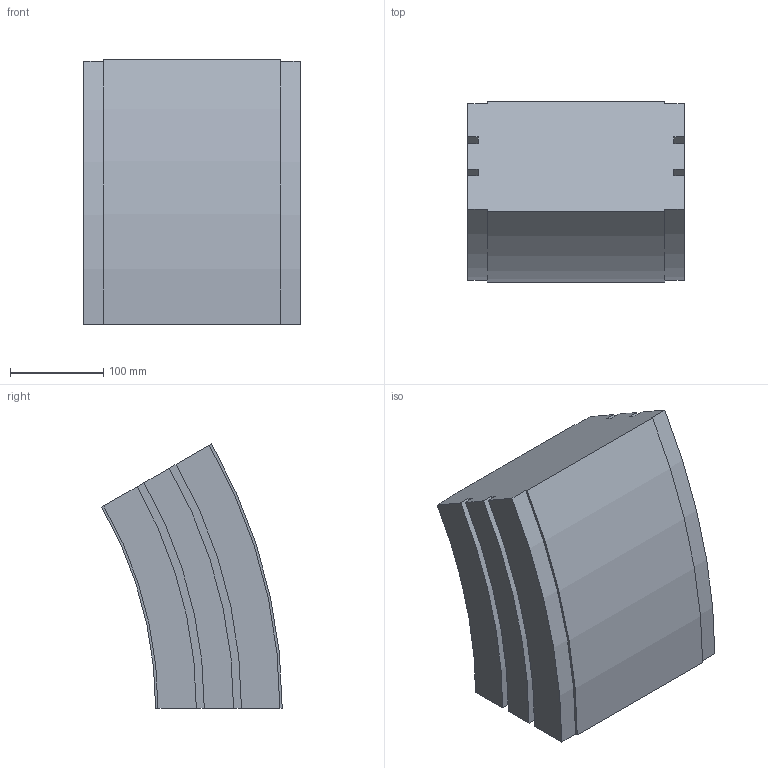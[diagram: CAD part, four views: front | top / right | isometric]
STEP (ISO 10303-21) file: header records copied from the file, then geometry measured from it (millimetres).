
FILE_DESCRIPTION (( 'STEP AP214' ), '1' );
FILE_NAME ('02.150V30.230.N FS-230-MTC-150 Bocht verticaal 30°.STEP', '2013-03-29T13:03:40', ( 'Gebruiker' ), ( '' ), 'SwSTEP 2.0', 'SolidWorks 2012', '' );
FILE_SCHEMA (( 'AUTOMOTIVE_DESIGN' ));
Length unit declared in the file: millimetre
Products named in the file (1): 02.150V30.230.N FS-230-MTC-150 Bocht verticaal 30°
Bounding box: 232.5 x 193.88 x 284 mm (x, y, z)
Volume: 8125205.8 mm3; surface area: 278056.5 mm2
Topology: 1 solids, 1 shells, 30 faces, 84 edges, 56 vertices
Faces by surface type: plane 16, cylinder 14
Entity records: 1010 total; most frequent: DIRECTION 174, CARTESIAN_POINT 171, ORIENTED_EDGE 168, EDGE_CURVE 84, AXIS2_PLACEMENT_3D 59, VERTEX_POINT 56, LINE 56, VECTOR 56
